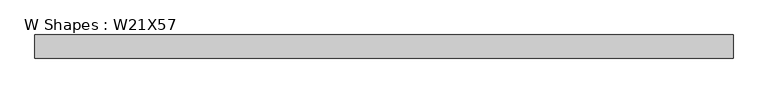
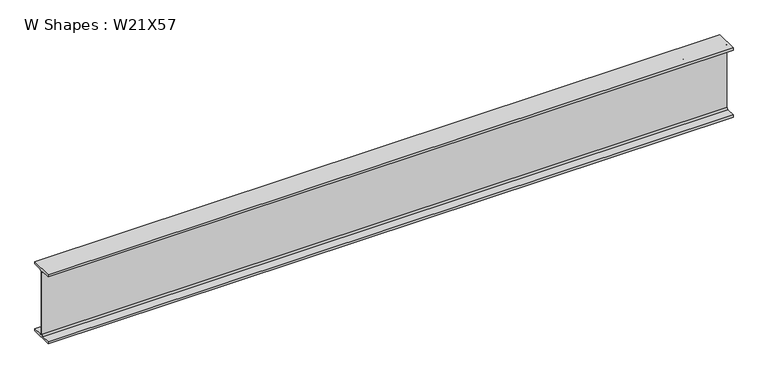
"""IFC4 building model written with IfcOpenShell, lengths in millimetres: beam geometry, W Shapes : W21X57."""

from ifc_helpers import new_model, si_unit, point, frame, frame_2d, origin, place, context, project, spatial, polyline, circle_curve, trimmed, segment, composite_curve, outline, extrude, source, transform, mapped, element, save


def w_shapes_w21x57_4362a108(model_context):
    return source(origin(), model_context, "Body", "SweptSolid", [
        extrude(outline(composite_curve([segment(polyline([(83.312, -251.46), (83.312, -267.97), (-83.312, -267.97), (-83.312, -251.46), (-17.8435, -251.46)]), True, "CONTINUOUS"), segment(trimmed(circle_curve(frame_2d((-17.8435, -238.76)), 12.7), [point((-17.8435, -251.46))], [point((-5.1435, -238.76))], True, "CARTESIAN"), True, "CONTINUOUS"), segment(polyline([(-5.1435, -238.76), (-5.1435, 238.76)]), True, "CONTINUOUS"), segment(trimmed(circle_curve(frame_2d((-17.8435, 238.76)), 12.7), [point((-5.1435, 238.76))], [point((-17.8435, 251.46))], True, "CARTESIAN"), True, "CONTINUOUS"), segment(polyline([(-17.8435, 251.46), (-83.312, 251.46), (-83.312, 267.97), (83.312, 267.97), (83.312, 251.46), (17.8435, 251.46)]), True, "CONTINUOUS"), segment(trimmed(circle_curve(frame_2d((17.8435, 238.76)), 12.7), [point((17.8435, 251.46))], [point((5.1435, 238.76))], True, "CARTESIAN"), True, "CONTINUOUS"), segment(polyline([(5.1435, 238.76), (5.1435, -238.76)]), True, "CONTINUOUS"), segment(trimmed(circle_curve(frame_2d((17.8435, -238.76)), 12.7), [point((5.1435, -238.76))], [point((17.8435, -251.46))], True, "CARTESIAN"), True, "CONTINUOUS"), segment(polyline([(17.8435, -251.46), (83.312, -251.46)]), True, "CONTINUOUS")], self_intersect=False)), frame((-2474.5171424, 0.0, 0.0), z_axis=(1.0, 0.0, 0.0), x_axis=(0.0, 1.0, 0.0)), (0.0, 0.0, 1.0), 5023.8568363),
    ])


if __name__ == "__main__":
    model = new_model("IFC4")
    model_context = context("Model", 3, world=origin())
    ifc_project = project(units=[si_unit("LENGTHUNIT", "METRE", prefix="MILLI")], contexts=[model_context])
    site = spatial("IfcSite", under=ifc_project)
    building = spatial("IfcBuilding", under=site)
    placement = place(None, origin())
    w_shapes_w21x57_shape = w_shapes_w21x57_4362a108(model_context)
    element("IfcBeam", 1, ObjectType="W Shapes : W21X57", at=placement, inside=building, context=model_context, shape_type="MappedRepresentation", body=[
        mapped(w_shapes_w21x57_shape, transform((0.0, 0.0, 0.0), x_axis=(1.0, 0.0, 0.0), y_axis=(0.0, 1.0, 0.0), z_axis=(0.0, 0.0, 1.0))),
    ])
    save(model, "model.ifc")
